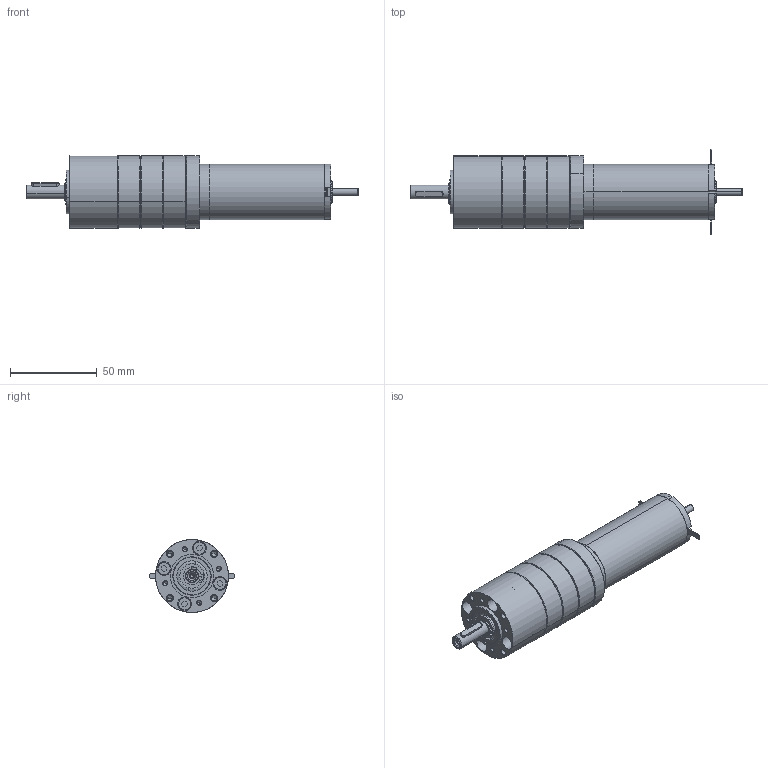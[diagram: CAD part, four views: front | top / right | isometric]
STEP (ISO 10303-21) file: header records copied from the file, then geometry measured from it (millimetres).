
FILE_DESCRIPTION (( 'STEP AP214' ), '1' );
FILE_NAME ('DCX32LG + PM42-3 étages.STEP', '2014-10-15T09:17:03', ( '' ), ( '' ), 'SwSTEP 2.0', 'SolidWorks 2013', '' );
FILE_SCHEMA (( 'AUTOMOTIVE_DESIGN' ));
Length unit declared in the file: millimetre
Products named in the file (36): VBZ_K7841_ABTRIEB_AF0_11; 7; DIN998_PS_8X14X1_11; 6; D625-608-2RS_10; 1228610; 8007595_LAGERFLANSCH_10; 5; Coté moteur^PM42 pour DCX32LG; 4; MOTORFLANSCH_1240243; 3; 8012556_MOTORRITZEL_Z17_1_3; 2; 8001288_ANLAUFSCHEIBE_1ST_9; 1; 8007606_DICHTRING_10; P8209_8007589_ZAHNKRANZ_Z46_10; DCX32LG + PM42-3 étages; DCX32LG; 16; 15; PM42 pour DCX32LG_3 etages; 14; Coté sortie^PM42 pour DCX32LG; 13; SCHRAUBE_1241978_17; 12; 3X3X16_D6885A_11; 11; D471_8X0_8_11; 10; 8001316_ABTRIEB_LK4_KPL_10; 9; 8001305_LAGERBOLZEN_11; 8
Assembly tree (47 placements, depth 5):
  DCX32LG + PM42-3 étages
    DCX32LG
      1
      2
      3
      4
      5
      1228610
      6
      7
      8
      9
      10
      11
      12
      13
      14
      15
      16
    PM42 pour DCX32LG_3 etages
      P8209_8007589_ZAHNKRANZ_Z46_10  x3
      Coté moteur^PM42 pour DCX32LG
        8007606_DICHTRING_10
        8001288_ANLAUFSCHEIBE_1ST_9
        8012556_MOTORRITZEL_Z17_1_3
        MOTORFLANSCH_1240243
      Coté sortie^PM42 pour DCX32LG
        8007595_LAGERFLANSCH_10
        D625-608-2RS_10  x2
        DIN998_PS_8X14X1_11  x2
        8001316_ABTRIEB_LK4_KPL_10
          VBZ_K7841_ABTRIEB_AF0_11
          8001305_LAGERBOLZEN_11  x3
        D471_8X0_8_11
        3X3X16_D6885A_11
        8007606_DICHTRING_10
        SCHRAUBE_1241978_17  x4
      8007606_DICHTRING_10  x2
Bounding box: 191.15 x 49.3 x 42 mm (x, y, z)
Volume: 85832.1 mm3; surface area: 78828.1 mm2
Topology: 39 solids, 65 shells, 2508 faces, 6129 edges, 3792 vertices
Faces by surface type: cylinder 926, cone 781, plane 685, bspline 116
Entity records: 76460 total; most frequent: CARTESIAN_POINT 15368, DIRECTION 10332, ORIENTED_EDGE 8982, EDGE_CURVE 4519, AXIS2_PLACEMENT_3D 4045, VERTEX_POINT 2746, LINE 2242, VECTOR 2242
